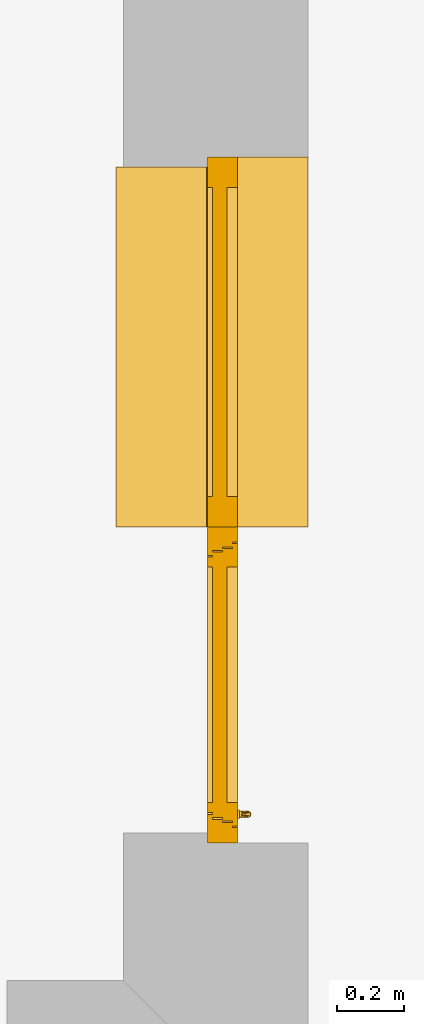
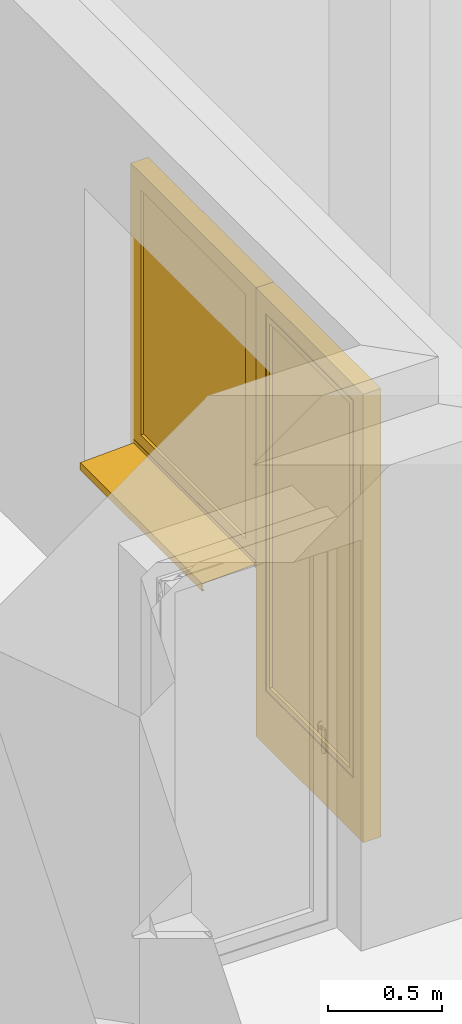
# One storey, part 13 of 18: 2 windows.
"""IFC2X3 building model written with IfcOpenShell, lengths in metres."""

from ifc_helpers import new_model, entity, si_unit, converted_unit, derived_unit, direction, frame, origin, origin_2d_with_axis, place, context, subcontext, project, spatial, polyline, rectangle, outline, extrude, faceted_brep, source, transform, mapped, material, material_list, type_object, type_shapes, element, save


model = new_model("IFC2X3")

# Units and contexts
model_context = context("Model", 3, precision=1e-05, world=origin(), true_north=direction((6.123233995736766e-17, 1.0)))
body_context = subcontext(model_context, "Body", "Model", "MODEL_VIEW")
ifc_project = project(units=[si_unit("LENGTHUNIT", "METRE"), si_unit("AREAUNIT", "SQUARE_METRE"), si_unit("VOLUMEUNIT", "CUBIC_METRE"), si_unit("POWERUNIT", "WATT"), derived_unit("USERDEFINED", [(si_unit("MASSUNIT", "GRAM", prefix="KILO"), 1), (si_unit("TIMEUNIT", "SECOND"), -3)]), derived_unit("THERMALRESISTANCEUNIT", [(si_unit("MASSUNIT", "GRAM", prefix="KILO"), -1), (si_unit("TIMEUNIT", "SECOND"), 3), (si_unit("THERMODYNAMICTEMPERATUREUNIT", "KELVIN"), 1)]), derived_unit("USERDEFINED", [(si_unit("MASSUNIT", "GRAM", prefix="KILO"), 1), (si_unit("TIMEUNIT", "SECOND"), -2), (si_unit("THERMODYNAMICTEMPERATUREUNIT", "KELVIN"), -1)]), derived_unit("THERMALTRANSMITTANCEUNIT", [(si_unit("MASSUNIT", "GRAM", prefix="KILO"), 1), (si_unit("TIMEUNIT", "SECOND"), -3), (si_unit("THERMODYNAMICTEMPERATUREUNIT", "KELVIN"), -1)]), converted_unit("PLANEANGLEUNIT", "DEGREE", entity("IfcPlaneAngleMeasure", 0.017453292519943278), si_unit("PLANEANGLEUNIT", "RADIAN"), dimensions=[0, 0, 0, 0, 0, 0, 0]), derived_unit("MOMENTOFINERTIAUNIT", [(si_unit("LENGTHUNIT", "METRE"), 4)])], contexts=[model_context])

# Site, building, storey
site_placement = place(None, origin())
site = spatial("IfcSite", under=ifc_project, at=site_placement, Name="Default", CompositionType="ELEMENT")
building_placement = place(site_placement, origin())
building = spatial("IfcBuilding", under=site, at=building_placement, CompositionType="ELEMENT")
storey_placement = place(building_placement, frame((0.0, 0.0, 2.6)))
storey = spatial("IfcBuildingStorey", under=building, at=storey_placement, Name="Erdgeschoss", CompositionType="ELEMENT", Elevation=2.6)

# Windows
ifc_material_1 = material(Name="Glas - Isolierverglasung klar")
ifc_material_2 = material(Name="Kunststoff - grau 70-70-70")
ifc_material_3 = material(Name="Holz - generisch 140-100-70")
ifc_material_list_1 = material_list([ifc_material_1, ifc_material_2, ifc_material_3])
window_style_1 = type_object("IfcWindowStyle", Name="FE 1 tlg - Fix:1100 x 1500", ConstructionType="NOTDEFINED", OperationType="NOTDEFINED", ParameterTakesPrecedence=False, Sizeable=False, material=ifc_material_list_1)
shared_shape_1 = source(origin(), body_context, "Body", "SolidModel", [
    extrude(rectangle(XDim=0.9199999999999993, YDim=0.04399999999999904, at=origin_2d_with_axis()), frame((0.5499999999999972, 0.2630000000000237, 0.10000000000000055), z_axis=(0.0, 0.0, 1.0), x_axis=(-1.0, 0.0, 0.0)), (0.0, 0.0, 1.0), 1.3099999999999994),
    extrude(outline(polyline([(-0.7499999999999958, -0.5499999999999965), (0.7499999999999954, -0.5499999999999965), (0.7499999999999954, 0.5499999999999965), (-0.7499999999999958, 0.5499999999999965), (-0.7499999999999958, -0.5499999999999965)]), holes=[polyline([(-0.660000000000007, 0.4599999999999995), (0.6499999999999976, 0.4599999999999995), (0.6499999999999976, -0.4599999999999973), (-0.660000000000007, -0.4599999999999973), (-0.660000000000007, 0.4599999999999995)])]), frame((0.5499999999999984, 0.2100000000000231, 0.7499999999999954), z_axis=(0.0, 1.0, 0.0), x_axis=(0.0, 0.0, -1.0)), (0.0, 0.0, 1.0), 0.08999999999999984),
    extrude(outline(polyline([(-0.014333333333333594, -0.07333333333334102), (0.0036666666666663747, -0.07333333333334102), (0.0036666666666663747, -0.06333333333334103), (0.010666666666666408, -0.06333333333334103), (0.010666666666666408, 0.1366666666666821), (-0.014333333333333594, 0.1366666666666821), (-0.014333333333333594, -0.07333333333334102)])), frame((0.0, 0.07333333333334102, 0.010666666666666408), z_axis=(1.0, 0.0, 0.0), x_axis=(0.0, 0.0, -1.0)), (0.0, 0.0, 1.0), 1.0999999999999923),
    faceted_brep([(0.0, 0.572000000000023, 0.011120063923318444), (0.0, 0.5500000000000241, 0.012000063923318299), (0.0, 0.30200000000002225, 0.021920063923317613), (1.069999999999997, 0.30200000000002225, 0.021920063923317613), (1.0699999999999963, 0.5500000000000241, 0.012000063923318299), (1.069999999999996, 0.5720000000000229, 0.011120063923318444), (0.0, 0.5720000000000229, -0.0288799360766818), (1.069999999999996, 0.5720000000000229, -0.0288799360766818), (0.0, 0.5600000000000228, -0.0288799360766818), (1.069999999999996, 0.5600000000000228, -0.0288799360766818), (0.0, 0.5600000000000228, -0.026879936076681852), (1.069999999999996, 0.5600000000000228, -0.026879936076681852), (0.0, 0.5700000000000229, -0.026879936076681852), (1.069999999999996, 0.5700000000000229, -0.026879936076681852), (0.0, 0.5700000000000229, 0.009200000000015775), (1.069999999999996, 0.5700000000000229, 0.009200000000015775), (0.0, 0.550000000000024, 0.010000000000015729), (1.0699999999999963, 0.550000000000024, 0.010000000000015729), (1.0699999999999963, 0.30000000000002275, 0.02000000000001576), (0.0, 0.3000000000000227, 0.02000000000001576), (0.0, 0.30000000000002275, 0.040000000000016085), (1.0699999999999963, 0.30000000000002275, 0.040000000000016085), (0.0, 0.30200000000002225, 0.040000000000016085), (1.0699999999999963, 0.30200000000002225, 0.040000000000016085)], [[[0, 1, 2, 3, 4, 5]], [[6, 0, 5, 7]], [[8, 6, 7, 9]], [[10, 8, 9, 11]], [[12, 10, 11, 13]], [[14, 12, 13, 15]], [[16, 14, 15, 17, 18, 19]], [[20, 19, 18, 21]], [[22, 20, 21, 23]], [[2, 22, 23, 3]], [[16, 1, 0, 6, 8, 10, 12, 14]], [[17, 4, 3, 23, 21, 18]], [[1, 16, 19, 20, 22, 2]], [[4, 17, 15, 13, 11, 9, 7, 5]]]),
])
type_shapes(window_style_1, [shared_shape_1])
window_1_placement = place(storey_placement, frame((30.08672000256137, 21.95227237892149, 0.6999999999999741), z_axis=(0.0, 0.0, 1.0), x_axis=(0.0, 1.0, 0.0)))
element("IfcWindow", 1, at=window_1_placement, inside=storey, type_object=window_style_1, material=ifc_material_list_1, Name="FE 1 tlg - Fix:1100 x 1500", ObjectType="FE 1 tlg - Fix:1100 x 1500", OverallHeight=2.3500000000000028, OverallWidth=1.100000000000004, context=body_context, shape_type="MappedRepresentation", body=[
    mapped(shared_shape_1, transform((0.0, 0.0, 0.0), scale=1.0)),
])
ifc_material_4 = material(Name="Metall - Edelstahl gebürstet")
ifc_material_list_2 = material_list([ifc_material_1, ifc_material_4, ifc_material_2])
window_style_2 = type_object("IfcWindowStyle", Name="FE TÜR 1 tlg - DrehKipp:940 x 2200", ConstructionType="NOTDEFINED", OperationType="NOTDEFINED", ParameterTakesPrecedence=False, Sizeable=False, material=ifc_material_list_2)
shared_shape_2 = source(origin(), body_context, "Body", "SolidModel", [
    extrude(rectangle(XDim=0.7000000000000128, YDim=0.04399999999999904, at=origin_2d_with_axis()), frame((0.4700000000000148, 0.9730000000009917, 0.3300000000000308), z_axis=(0.0, 0.0, 1.0), x_axis=(-1.0, 0.0, 0.0)), (0.0, 0.0, 1.0), 1.949999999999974),
    faceted_brep([(0.07250000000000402, 0.920000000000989, 1.2874999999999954), (0.07250000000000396, 0.9200000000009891, 1.3049999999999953), (0.0725000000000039, 0.9200000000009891, 1.3224999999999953), (0.07292592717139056, 0.9200000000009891, 1.3257352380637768), (0.07417468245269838, 0.9200000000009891, 1.3287499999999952), (0.07616116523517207, 0.9200000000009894, 1.3313388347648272), (0.07875000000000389, 0.9200000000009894, 1.3333253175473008), (0.08176476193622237, 0.9200000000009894, 1.3345740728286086), (0.08500000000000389, 0.9200000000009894, 1.3349999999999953), (0.08823523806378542, 0.9200000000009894, 1.3345740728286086), (0.0912500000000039, 0.9200000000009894, 1.3333253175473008), (0.09383883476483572, 0.9200000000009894, 1.3313388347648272), (0.0958253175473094, 0.9200000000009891, 1.3287499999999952), (0.09707407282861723, 0.9200000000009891, 1.3257352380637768), (0.09750000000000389, 0.9200000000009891, 1.3224999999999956), (0.09750000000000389, 0.9200000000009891, 1.3049999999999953), (0.09750000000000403, 0.920000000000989, 1.2874999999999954), (0.09707407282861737, 0.920000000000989, 1.2842647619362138), (0.09582531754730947, 0.920000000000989, 1.2812499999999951), (0.09383883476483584, 0.920000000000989, 1.2786611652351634), (0.09125000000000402, 0.920000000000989, 1.2766746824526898), (0.08823523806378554, 0.920000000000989, 1.2754259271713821), (0.08500000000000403, 0.920000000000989, 1.2749999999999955), (0.08176476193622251, 0.920000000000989, 1.2754259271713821), (0.07875000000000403, 0.920000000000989, 1.2766746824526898), (0.0761611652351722, 0.920000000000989, 1.2786611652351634), (0.07417468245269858, 0.920000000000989, 1.2812499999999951), (0.07292592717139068, 0.920000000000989, 1.2842647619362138), (0.0763397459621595, 0.8850000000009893, 1.3099999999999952), (0.0800000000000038, 0.9140000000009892, 1.3136602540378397), (0.07534074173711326, 0.8874118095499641, 1.3075881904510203), (0.07792893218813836, 0.8829289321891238, 1.3120710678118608), (0.0824118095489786, 0.9140000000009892, 1.314659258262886), (0.08758819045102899, 0.8803407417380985, 1.3146592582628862), (0.09000000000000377, 0.8813397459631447, 1.31366025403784), (0.0800000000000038, 0.8813397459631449, 1.3136602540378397), (0.08241180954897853, 0.8803407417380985, 1.314659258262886), (0.08500000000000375, 0.8800000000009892, 1.3149999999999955), (0.08500000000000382, 0.9140000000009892, 1.3149999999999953), (0.07534074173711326, 0.9140000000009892, 1.3075881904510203), (0.07500000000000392, 0.9140000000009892, 1.3049999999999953), (0.07500000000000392, 0.9017156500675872, 1.3049999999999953), (0.07500000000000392, 0.8958578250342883, 1.3049999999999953), (0.07500000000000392, 0.8929289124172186, 1.3049999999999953), (0.07500000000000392, 0.8900000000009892, 1.3049999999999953), (0.0763397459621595, 0.9140000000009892, 1.3099999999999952), (0.07792893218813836, 0.9140000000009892, 1.3120710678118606), (0.0920710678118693, 0.8829289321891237, 1.3120710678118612), (0.09000000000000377, 0.9140000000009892, 1.31366025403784), (0.09366025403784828, 0.8850000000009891, 1.3099999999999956), (0.09465925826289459, 0.8874118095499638, 1.307588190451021), (0.08758819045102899, 0.9140000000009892, 1.314659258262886), (0.0920710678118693, 0.9140000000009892, 1.3120710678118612), (0.09500000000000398, 0.8900000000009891, 1.3049999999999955), (0.09366025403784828, 0.9140000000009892, 1.3099999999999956), (0.09465925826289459, 0.9140000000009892, 1.307588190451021), (0.09500000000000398, 0.8929289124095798, 1.3049999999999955), (0.09500000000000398, 0.8958578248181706, 1.3049999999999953), (0.09500000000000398, 0.9017156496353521, 1.3049999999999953), (0.09500000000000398, 0.9140000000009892, 1.3049999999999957), (0.09207106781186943, 0.8970710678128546, 1.2979289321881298), (0.09366025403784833, 0.8950000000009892, 1.2999999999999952), (0.09465925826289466, 0.8925881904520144, 1.3024118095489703), (0.09465925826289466, 0.9140000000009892, 1.30241180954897), (0.09000000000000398, 0.8986602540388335, 1.2963397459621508), (0.08758819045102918, 0.8996592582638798, 1.2953407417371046), (0.09207106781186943, 0.9140000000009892, 1.2979289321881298), (0.09366025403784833, 0.9140000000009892, 1.2999999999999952), (0.09000000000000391, 0.9140000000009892, 1.2963397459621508), (0.08758819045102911, 0.9140000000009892, 1.2953407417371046), (0.08500000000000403, 0.9000000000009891, 1.2949999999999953), (0.08500000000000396, 0.9140000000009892, 1.2949999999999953), (0.07792893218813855, 0.8970710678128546, 1.2979289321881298), (0.08000000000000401, 0.8986602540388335, 1.2963397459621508), (0.0824118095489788, 0.8996592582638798, 1.2953407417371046), (0.07792893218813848, 0.9140000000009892, 1.2979289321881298), (0.07534074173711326, 0.9140000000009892, 1.30241180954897), (0.07534074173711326, 0.8925881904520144, 1.30241180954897), (0.07633974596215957, 0.8950000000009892, 1.2999999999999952), (0.08241180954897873, 0.9140000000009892, 1.2953407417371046), (0.08000000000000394, 0.9140000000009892, 1.2963397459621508), (0.07633974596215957, 0.9140000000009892, 1.2999999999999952), (0.07500000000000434, 0.8900000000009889, 1.1849999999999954), (0.07534074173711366, 0.892588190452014, 1.1849999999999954), (0.07633974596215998, 0.8950000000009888, 1.1849999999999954), (0.0779289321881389, 0.8970710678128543, 1.1849999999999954), (0.08000000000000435, 0.8986602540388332, 1.1849999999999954), (0.08241180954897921, 0.8996592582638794, 1.1849999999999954), (0.08500000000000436, 0.9000000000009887, 1.1849999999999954), (0.0875881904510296, 0.8996592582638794, 1.1849999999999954), (0.09000000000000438, 0.8986602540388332, 1.1849999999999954), (0.09207106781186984, 0.8970710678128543, 1.1849999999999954), (0.09366025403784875, 0.8950000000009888, 1.1849999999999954), (0.09465925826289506, 0.892588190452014, 1.1849999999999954), (0.09500000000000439, 0.8900000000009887, 1.1849999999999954), (0.094659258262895, 0.8874118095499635, 1.1849999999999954), (0.09366025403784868, 0.8850000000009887, 1.1849999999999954), (0.09207106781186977, 0.8829289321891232, 1.1849999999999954), (0.09000000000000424, 0.8813397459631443, 1.1849999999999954), (0.08758819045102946, 0.880340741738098, 1.1849999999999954), (0.08500000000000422, 0.8800000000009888, 1.1849999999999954), (0.08241180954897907, 0.8803407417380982, 1.1849999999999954), (0.08000000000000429, 0.8813397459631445, 1.1849999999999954), (0.07792893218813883, 0.8829289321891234, 1.1849999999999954), (0.07633974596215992, 0.8850000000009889, 1.1849999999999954), (0.07534074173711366, 0.8874118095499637, 1.1849999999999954), (0.07500000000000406, 0.8900000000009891, 1.2773956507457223), (0.07500000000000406, 0.8900000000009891, 1.2497913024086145), (0.09500000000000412, 0.890000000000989, 1.2497913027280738), (0.09500000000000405, 0.8900000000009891, 1.2773956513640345), (0.09582531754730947, 0.914000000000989, 1.2812499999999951), (0.09383883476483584, 0.914000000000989, 1.2786611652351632), (0.09707407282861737, 0.914000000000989, 1.2842647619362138), (0.09750000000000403, 0.914000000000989, 1.2874999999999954), (0.09750000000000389, 0.9140000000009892, 1.3049999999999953), (0.09750000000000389, 0.9140000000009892, 1.3224999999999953), (0.09707407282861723, 0.9140000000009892, 1.3257352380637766), (0.0958253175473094, 0.9140000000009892, 1.3287499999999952), (0.09383883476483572, 0.9140000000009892, 1.3313388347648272), (0.0912500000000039, 0.9140000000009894, 1.3333253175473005), (0.08823523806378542, 0.9140000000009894, 1.3345740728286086), (0.08500000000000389, 0.9140000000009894, 1.3349999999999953), (0.08176476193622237, 0.9140000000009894, 1.3345740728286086), (0.07875000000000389, 0.9140000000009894, 1.3333253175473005), (0.07616116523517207, 0.9140000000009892, 1.3313388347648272), (0.07417468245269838, 0.9140000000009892, 1.3287499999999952), (0.07292592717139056, 0.9140000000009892, 1.3257352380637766), (0.0725000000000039, 0.9140000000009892, 1.3224999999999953), (0.07250000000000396, 0.9140000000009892, 1.3049999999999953), (0.07250000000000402, 0.914000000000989, 1.2874999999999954), (0.07292592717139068, 0.914000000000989, 1.2842647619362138), (0.07417468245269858, 0.914000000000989, 1.2812499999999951), (0.0761611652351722, 0.914000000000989, 1.2786611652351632), (0.07875000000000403, 0.914000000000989, 1.2766746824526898), (0.08176476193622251, 0.914000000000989, 1.275425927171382), (0.08500000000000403, 0.914000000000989, 1.2749999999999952), (0.08823523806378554, 0.914000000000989, 1.275425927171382), (0.09125000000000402, 0.914000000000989, 1.2766746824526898)], [[[0, 1, 2, 3, 4, 5, 6, 7, 8, 9, 10, 11, 12, 13, 14, 15, 16, 17, 18, 19, 20, 21, 22, 23, 24, 25, 26, 27]], [[28, 29, 30]], [[31, 32, 28]], [[33, 34, 35, 36, 37]], [[32, 31, 38]], [[38, 31, 35]], [[39, 40, 41, 42, 43, 44]], [[39, 44, 45]], [[46, 45, 44]], [[46, 30, 29]], [[44, 30, 46]], [[28, 32, 29]], [[35, 34, 38]], [[47, 38, 34]], [[48, 49, 50]], [[47, 49, 51]], [[52, 50, 53]], [[51, 38, 47]], [[48, 51, 49]], [[54, 52, 53]], [[55, 53, 56, 57, 58, 59]], [[54, 53, 55]], [[48, 50, 52]], [[60, 58, 61]], [[53, 62, 57, 56]], [[58, 63, 59]], [[58, 57, 61]], [[64, 65, 66]], [[58, 64, 66]], [[58, 60, 64]], [[58, 67, 63]], [[65, 68, 66]], [[67, 58, 66]], [[68, 65, 69]], [[70, 71, 69, 65]], [[61, 57, 62]], [[72, 41, 73]], [[74, 73, 75]], [[76, 41, 40]], [[77, 44, 43, 42]], [[42, 78, 77]], [[78, 41, 72]], [[71, 70, 74, 79]], [[80, 79, 74]], [[75, 73, 41]], [[42, 41, 78]], [[41, 76, 81]], [[41, 81, 75]], [[80, 74, 75]], [[82, 83, 84, 85, 86, 87, 88, 89, 90, 91, 92, 93, 94, 95, 96, 97, 98, 99, 100, 101, 102, 103, 104, 105]], [[105, 44, 106, 107, 82]], [[104, 44, 105]], [[102, 101, 36, 35]], [[30, 104, 103]], [[31, 103, 102, 35]], [[103, 28, 30]], [[30, 44, 104]], [[31, 28, 103]], [[100, 37, 36, 101]], [[98, 97, 47, 34]], [[99, 98, 34, 33]], [[95, 94, 108, 109, 53]], [[96, 95, 53]], [[97, 96, 50]], [[33, 37, 100, 99]], [[97, 49, 47]], [[97, 50, 49]], [[96, 53, 50]], [[108, 92, 91]], [[92, 108, 93]], [[89, 65, 108]], [[108, 90, 89]], [[108, 91, 90]], [[93, 108, 94]], [[62, 53, 109]], [[61, 62, 109]], [[70, 65, 89, 88]], [[64, 108, 65]], [[108, 64, 60]], [[109, 60, 61]], [[106, 78, 72]], [[78, 106, 77]], [[85, 107, 86]], [[86, 107, 87]], [[82, 107, 83]], [[44, 77, 106]], [[83, 107, 84]], [[84, 107, 85]], [[74, 70, 88, 87]], [[87, 107, 74]], [[107, 72, 73]], [[107, 106, 72]], [[73, 74, 107]], [[108, 60, 109]], [[110, 71, 111]], [[69, 71, 110]], [[112, 69, 110]], [[112, 113, 69]], [[69, 113, 68]], [[66, 68, 113]], [[67, 66, 113]], [[114, 67, 113]], [[114, 63, 67]], [[114, 59, 63]], [[55, 59, 114]], [[114, 54, 55]], [[54, 114, 115]], [[52, 54, 115]], [[48, 52, 115]], [[51, 48, 115]], [[116, 51, 115]], [[116, 117, 51]], [[51, 117, 38]], [[118, 38, 117]], [[38, 118, 119]], [[119, 120, 38]], [[38, 120, 121]], [[38, 121, 122]], [[122, 123, 38]], [[123, 124, 38]], [[125, 38, 124]], [[32, 38, 125]], [[126, 32, 125]], [[32, 126, 127]], [[29, 32, 127]], [[46, 29, 127]], [[45, 46, 127]], [[127, 128, 45]], [[128, 39, 45]], [[128, 40, 39]], [[128, 76, 40]], [[128, 81, 76]], [[128, 129, 81]], [[81, 129, 75]], [[80, 75, 129]], [[79, 80, 129]], [[79, 129, 130]], [[130, 131, 79]], [[71, 131, 132]], [[71, 79, 131]], [[133, 71, 132]], [[71, 133, 134]], [[135, 71, 134]], [[136, 71, 135]], [[71, 136, 137]], [[111, 71, 137]], [[13, 116, 115, 14]], [[12, 117, 116, 13]], [[119, 118, 11, 10]], [[12, 11, 118, 117]], [[120, 119, 10, 9]], [[121, 120, 9, 8]], [[7, 122, 121, 8]], [[6, 123, 122, 7]], [[125, 124, 5, 4]], [[6, 5, 124, 123]], [[126, 125, 4, 3]], [[127, 126, 3, 2]], [[128, 127, 2, 1, 0, 129]], [[27, 130, 129, 0]], [[26, 131, 130, 27]], [[133, 132, 25, 24]], [[26, 25, 132, 131]], [[134, 133, 24, 23]], [[135, 134, 23, 22]], [[21, 136, 135, 22]], [[20, 137, 136, 21]], [[110, 111, 19, 18]], [[20, 19, 111, 137]], [[112, 110, 18, 17]], [[113, 112, 17, 16]], [[114, 113, 16, 15, 14, 115]]]),
    faceted_brep([(0.8200000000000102, 0.9200000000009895, 2.2799999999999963), (0.8200000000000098, 1.0100000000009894, 2.2799999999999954), (0.820000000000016, 1.0100000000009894, 0.32999999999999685), (0.8200000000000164, 0.9200000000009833, 0.3299999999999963), (0.8500000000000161, 1.010000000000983, 0.29999999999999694), (0.09000000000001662, 1.010000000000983, 0.2999999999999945), (0.0900000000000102, 1.0100000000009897, 2.309999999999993), (0.8500000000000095, 1.0100000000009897, 2.3099999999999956), (0.12000000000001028, 1.0100000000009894, 2.279999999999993), (0.12000000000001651, 1.0100000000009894, 0.32999999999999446), (0.12000000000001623, 0.9200000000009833, 0.32999999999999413), (0.12000000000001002, 0.9200000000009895, 2.279999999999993), (0.8900000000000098, 0.9200000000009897, 2.3499999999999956), (0.05000000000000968, 0.9200000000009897, 2.349999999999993), (0.05000000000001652, 0.9200000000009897, 0.25999999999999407), (0.8900000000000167, 0.9200000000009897, 0.2599999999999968), (0.8900000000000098, 0.9350000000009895, 2.3499999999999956), (0.8900000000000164, 0.9350000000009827, 0.2599999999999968), (0.05000000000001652, 0.9350000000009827, 0.25999999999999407), (0.050000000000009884, 0.9350000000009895, 2.349999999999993), (0.87500000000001, 0.9350000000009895, 2.334999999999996), (0.06500000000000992, 0.9350000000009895, 2.3349999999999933), (0.06500000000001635, 0.9350000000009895, 0.2749999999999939), (0.8750000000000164, 0.9350000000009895, 0.27499999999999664), (0.87500000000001, 0.96500000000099, 2.334999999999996), (0.8750000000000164, 0.9650000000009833, 0.2749999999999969), (0.06500000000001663, 0.9650000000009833, 0.2749999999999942), (0.06500000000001, 0.96500000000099, 2.3349999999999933), (0.8650000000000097, 0.96500000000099, 2.3249999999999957), (0.07500000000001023, 0.96500000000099, 2.324999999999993), (0.07500000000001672, 0.96500000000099, 0.2849999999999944), (0.8650000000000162, 0.96500000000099, 0.2849999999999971), (0.8650000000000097, 0.9950000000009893, 2.3249999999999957), (0.8650000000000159, 0.9950000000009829, 0.2849999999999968), (0.07500000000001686, 0.9950000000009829, 0.28499999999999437), (0.07500000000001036, 0.9950000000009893, 2.324999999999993), (0.8500000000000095, 0.9950000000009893, 2.3099999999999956), (0.09000000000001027, 0.9950000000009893, 2.309999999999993), (0.09000000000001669, 0.9950000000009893, 0.2999999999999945), (0.8500000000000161, 0.9950000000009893, 0.29999999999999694)], [[[0, 1, 2, 3]], [[4, 5, 6, 7], [1, 8, 9, 2]], [[3, 2, 9, 10]], [[3, 10, 11, 0], [12, 13, 14, 15]], [[16, 12, 15, 17]], [[17, 15, 14, 18]], [[17, 18, 19, 16], [20, 21, 22, 23]], [[24, 20, 23, 25]], [[25, 23, 22, 26]], [[25, 26, 27, 24], [28, 29, 30, 31]], [[32, 28, 31, 33]], [[33, 31, 30, 34]], [[33, 34, 35, 32], [36, 37, 38, 39]], [[7, 36, 39, 4]], [[4, 39, 38, 5]], [[10, 9, 8, 11]], [[18, 14, 13, 19]], [[26, 22, 21, 27]], [[34, 30, 29, 35]], [[5, 38, 37, 6]], [[11, 8, 1, 0]], [[19, 13, 12, 16]], [[27, 21, 20, 24]], [[35, 29, 28, 32]], [[6, 37, 36, 7]]], outer=[[True], [True, False], [True], [False, True], [True], [True], [True, False], [True], [True], [True, False], [True], [True], [True, False], [True], [True], [True], [True], [True], [True], [True], [True], [True], [True], [True], [True]]),
    faceted_brep([(0.0, 1.0100000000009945, 0.0), (0.9400000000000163, 1.0100000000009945, 0.0), (0.9400000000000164, 0.9200000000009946, 0.0), (0.0, 0.9200000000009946, 0.0), (0.0, 1.0100000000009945, 2.4000000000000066), (0.0, 0.9200000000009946, 2.4000000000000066), (0.9400000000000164, 0.9200000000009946, 2.4000000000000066), (0.0450000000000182, 0.9200000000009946, 2.355), (0.8950000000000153, 0.9200000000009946, 2.355), (0.8950000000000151, 0.9200000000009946, 0.2550000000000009), (0.0450000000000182, 0.9200000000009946, 0.2550000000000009), (0.9400000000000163, 1.0100000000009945, 2.4000000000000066), (0.08500000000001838, 1.0100000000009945, 0.2950000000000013), (0.8550000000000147, 1.0100000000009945, 0.2950000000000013), (0.8550000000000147, 1.0100000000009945, 2.315), (0.08500000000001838, 1.0100000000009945, 2.315), (0.08500000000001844, 0.9950000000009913, 2.315), (0.08500000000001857, 0.9950000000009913, 0.2950000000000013), (0.8550000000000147, 0.9950000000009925, 0.2950000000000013), (0.8550000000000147, 0.9950000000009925, 2.315), (0.0450000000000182, 0.9350000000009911, 2.355), (0.0450000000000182, 0.9350000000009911, 0.2550000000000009), (0.895000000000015, 0.9350000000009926, 0.2550000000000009), (0.8950000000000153, 0.9350000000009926, 2.355), (0.06000000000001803, 0.9350000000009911, 2.3400000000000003), (0.8800000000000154, 0.9350000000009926, 2.3400000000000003), (0.8800000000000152, 0.9350000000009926, 0.27000000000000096), (0.0600000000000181, 0.9350000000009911, 0.27000000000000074), (0.06000000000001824, 0.9650000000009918, 0.270000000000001), (0.8800000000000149, 0.9650000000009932, 0.270000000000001), (0.8800000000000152, 0.9650000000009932, 2.3400000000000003), (0.06000000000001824, 0.9650000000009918, 2.3400000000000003), (0.0700000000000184, 0.9650000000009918, 2.33), (0.8700000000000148, 0.9650000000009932, 2.33), (0.8700000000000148, 0.9650000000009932, 0.2800000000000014), (0.07000000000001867, 0.9650000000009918, 0.28000000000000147), (0.07000000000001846, 0.9950000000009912, 0.2800000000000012), (0.8700000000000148, 0.9950000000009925, 0.2800000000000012), (0.8700000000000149, 0.9950000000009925, 2.33), (0.0700000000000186, 0.9950000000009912, 2.33)], [[[0, 1, 2, 3]], [[4, 0, 3, 5]], [[5, 3, 2, 6], [7, 8, 9, 10]], [[6, 2, 1, 11]], [[11, 1, 0, 4], [12, 13, 14, 15]], [[12, 15, 16, 17]], [[18, 19, 14, 13]], [[17, 18, 13, 12]], [[20, 7, 10, 21]], [[10, 9, 22, 21]], [[9, 8, 23, 22]], [[21, 22, 23, 20], [24, 25, 26, 27]], [[28, 29, 30, 31], [32, 33, 34, 35]], [[31, 24, 27, 28]], [[27, 26, 29, 28]], [[36, 37, 38, 39], [16, 19, 18, 17]], [[39, 32, 35, 36]], [[35, 34, 37, 36]], [[26, 25, 30, 29]], [[34, 33, 38, 37]], [[4, 5, 6, 11]], [[20, 23, 8, 7]], [[31, 30, 25, 24]], [[39, 38, 33, 32]], [[15, 14, 19, 16]]]),
])
type_shapes(window_style_2, [shared_shape_2])
window_2_placement = place(storey_placement, frame((30.796720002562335, 21.01227237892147, -0.2), z_axis=(0.0, 0.0, 1.0), x_axis=(0.0, 1.0, 0.0)))
element("IfcWindow", 2, at=window_2_placement, inside=storey, type_object=window_style_2, material=ifc_material_list_2, Name="FE TÜR 1 tlg - DrehKipp:940 x 2200", ObjectType="FE TÜR 1 tlg - DrehKipp:940 x 2200", OverallHeight=2.4000000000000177, OverallWidth=0.940000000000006, context=body_context, shape_type="MappedRepresentation", body=[
    mapped(shared_shape_2, transform((0.0, 0.0, 0.0), scale=1.0)),
])

save(model, "model.ifc")
